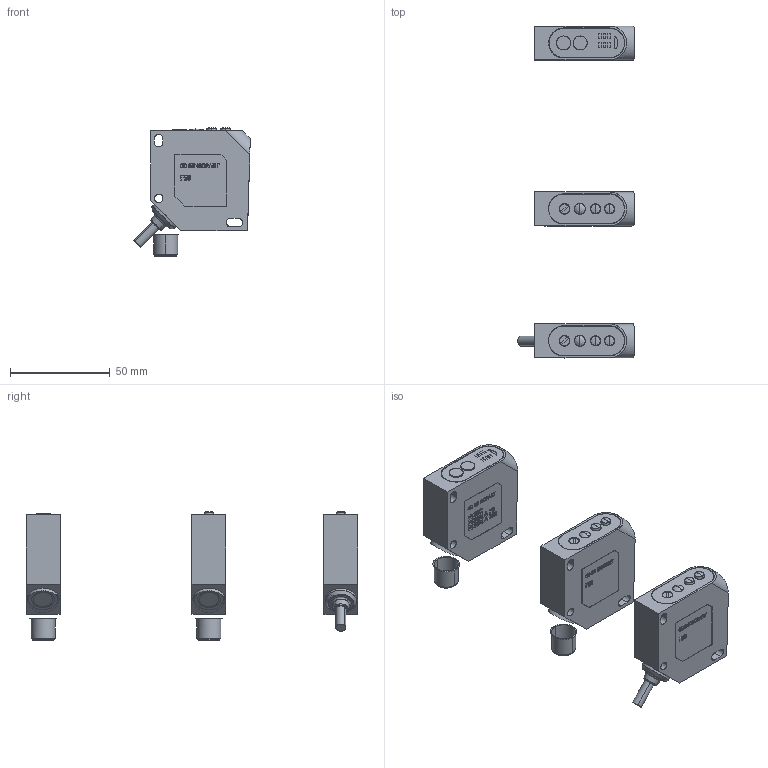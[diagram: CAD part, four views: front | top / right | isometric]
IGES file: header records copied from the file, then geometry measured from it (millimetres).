
Global section: file name: O:\Archiv\ARCHIV\153\3D-Model Kunde\15300590_F50.igs; native system: AutoCAD-16.0s (LMS Tech) (Microsoft Windows NT Version 5.1 (x86)); preprocessor: Autodesk IGES Translator Mechanical Desktop.R8.0.24.0 (Oct  8 2003) from Autodesk, Inc.; date: 20070626.101957; units: millimetre
Bounding box: 58.35 x 166.11 x 64.5 mm (x, y, z)
Surface area: 37281.5 mm2 (no closed solid volume)
Topology: 0 solids, 0 shells, 1313 faces, 12204 edges, 12192 vertices
Faces by surface type: bspline 1313
